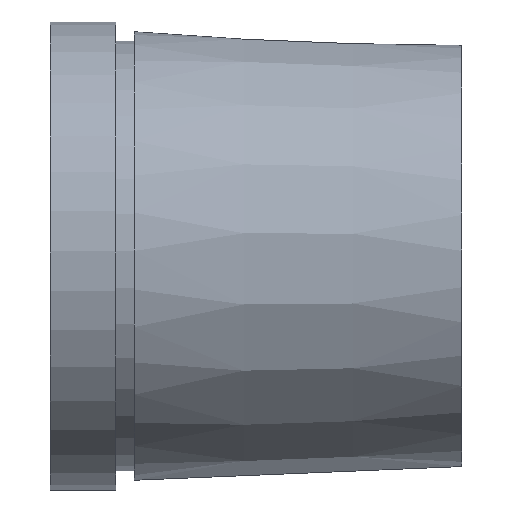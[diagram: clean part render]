
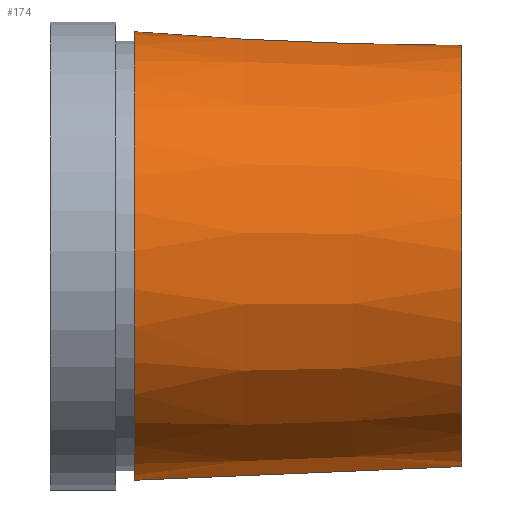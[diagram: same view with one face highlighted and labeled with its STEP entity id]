
A CAD part, top view. The second image highlights one B-rep face of the part: STEP entity #174.
In plain terms, the highlighted conical face has half-angle 2.386 degrees and reference radius 23.229 mm.
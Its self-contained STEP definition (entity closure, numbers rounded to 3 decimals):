
#18=CONICAL_SURFACE('',#209,23.229,0.042);
#19=CIRCLE('',#207,23.958);
#21=CIRCLE('',#210,22.5);
#30=FACE_OUTER_BOUND('',#40,.T.);
#40=EDGE_LOOP('',(#137,#138,#139,#140));
#47=(
BOUNDED_CURVE()
B_SPLINE_CURVE(2,(#286,#287,#288),.UNSPECIFIED.,.F.,.F.)
B_SPLINE_CURVE_WITH_KNOTS((3,3),(0.,3.503),.UNSPECIFIED.)
CURVE()
GEOMETRIC_REPRESENTATION_ITEM()
RATIONAL_B_SPLINE_CURVE((1.,1.,1.))
REPRESENTATION_ITEM('')
);
#48=(
BOUNDED_CURVE()
B_SPLINE_CURVE(2,(#305,#306,#307),.UNSPECIFIED.,.F.,.F.)
B_SPLINE_CURVE_WITH_KNOTS((3,3),(0.,3.503),.UNSPECIFIED.)
CURVE()
GEOMETRIC_REPRESENTATION_ITEM()
RATIONAL_B_SPLINE_CURVE((1.,1.,1.))
REPRESENTATION_ITEM('')
);
#81=VERTEX_POINT('',#283);
#82=VERTEX_POINT('',#285);
#89=VERTEX_POINT('',#302);
#90=VERTEX_POINT('',#304);
#97=EDGE_CURVE('',#82,#81,#47,.T.);
#105=EDGE_CURVE('',#90,#89,#48,.T.);
#109=EDGE_CURVE('',#89,#82,#19,.T.);
#111=EDGE_CURVE('',#90,#81,#21,.T.);
#137=ORIENTED_EDGE('',*,*,#97,.T.);
#138=ORIENTED_EDGE('',*,*,#111,.F.);
#139=ORIENTED_EDGE('',*,*,#105,.T.);
#140=ORIENTED_EDGE('',*,*,#109,.T.);
#174=ADVANCED_FACE('',(#30),#18,.T.);
#207=AXIS2_PLACEMENT_3D('',#314,#244,#245);
#209=AXIS2_PLACEMENT_3D('',#316,#248,#249);
#210=AXIS2_PLACEMENT_3D('',#317,#250,#251);
#244=DIRECTION('center_axis',(1.,0.,0.));
#245=DIRECTION('ref_axis',(0.,0.,-1.));
#248=DIRECTION('center_axis',(-1.,0.,0.));
#249=DIRECTION('ref_axis',(0.,1.,0.));
#250=DIRECTION('center_axis',(1.,0.,0.));
#251=DIRECTION('ref_axis',(0.,0.,-1.));
#283=CARTESIAN_POINT('',(-3.,-22.478,1.));
#285=CARTESIAN_POINT('',(-38.,-23.937,1.));
#286=CARTESIAN_POINT('Ctrl Pts',(-38.,-23.937,1.));
#287=CARTESIAN_POINT('Ctrl Pts',(-19.95,-23.185,1.));
#288=CARTESIAN_POINT('Ctrl Pts',(-3.,-22.478,1.));
#302=CARTESIAN_POINT('',(-38.,-23.937,-1.));
#304=CARTESIAN_POINT('',(-3.,-22.478,-1.));
#305=CARTESIAN_POINT('Ctrl Pts',(-3.,-22.478,-1.));
#306=CARTESIAN_POINT('Ctrl Pts',(-19.95,-23.185,-1.));
#307=CARTESIAN_POINT('Ctrl Pts',(-38.,-23.937,-1.));
#314=CARTESIAN_POINT('Origin',(-38.,0.,0.));
#316=CARTESIAN_POINT('Origin',(-20.5,0.,0.));
#317=CARTESIAN_POINT('Origin',(-3.,0.,0.));
